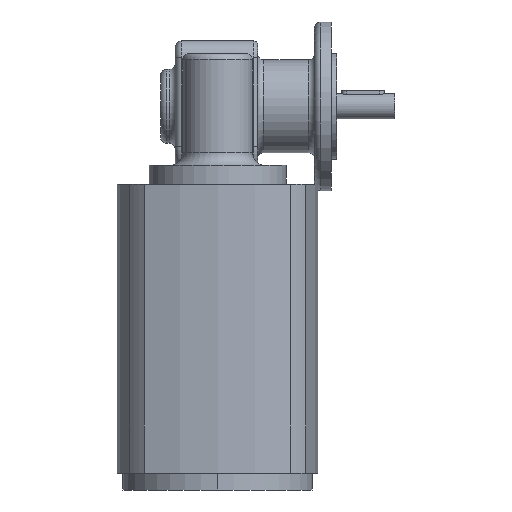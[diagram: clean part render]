
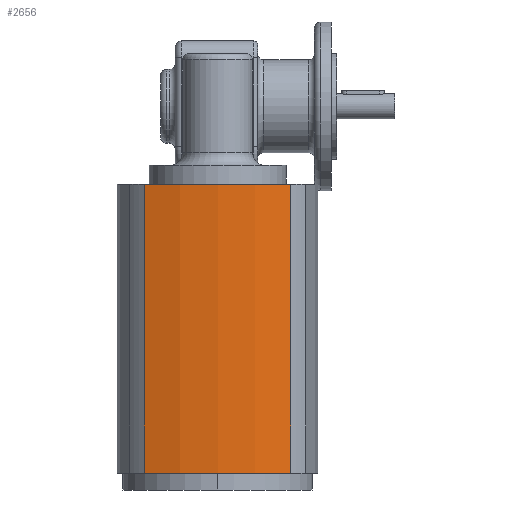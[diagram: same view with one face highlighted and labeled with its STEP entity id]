
A CAD part, front view. The second image highlights one B-rep face of the part: STEP entity #2656.
In plain terms, the highlighted cylindrical face has radius 107.045 mm (diameter 214.089 mm), a partial arc.
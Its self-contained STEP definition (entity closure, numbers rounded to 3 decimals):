
#872 = DIRECTION ( 'NONE',  ( 0., 0., 1. ) ) ;
#875 = FACE_OUTER_BOUND ( 'NONE', #3263, .T. ) ;
#876 = CARTESIAN_POINT ( 'NONE',  ( 59.545, 0., -137. ) ) ;
#877 = CYLINDRICAL_SURFACE ( 'NONE', #2227, 107.045 ) ;
#878 = DIRECTION ( 'NONE',  ( 1., 0., 0. ) ) ;
#1117 = CARTESIAN_POINT ( 'NONE',  ( -41.733, -34.662, -137. ) ) ;
#1790 = CARTESIAN_POINT ( 'NONE',  ( -41.733, 34.662, -137. ) ) ;
#1794 = LINE ( 'NONE', #1790, #2025 ) ;
#1798 = DIRECTION ( 'NONE',  ( 0., 0., 1. ) ) ;
#1799 = LINE ( 'NONE', #1800, #2031 ) ;
#1800 = CARTESIAN_POINT ( 'NONE',  ( -41.733, -34.662, -137. ) ) ;
#1808 = DIRECTION ( 'NONE',  ( 0., 0., 1. ) ) ;
#1813 = CARTESIAN_POINT ( 'NONE',  ( 59.545, 0., 0. ) ) ;
#1814 = DIRECTION ( 'NONE',  ( 0., 0., 1. ) ) ;
#1815 = DIRECTION ( 'NONE',  ( 1., 0., 0. ) ) ;
#2025 = VECTOR ( 'NONE', #1798, 1000. ) ;
#2031 = VECTOR ( 'NONE', #1808, 1000. ) ;
#2033 = CIRCLE ( 'NONE', #2036, 107.045 ) ;
#2036 = AXIS2_PLACEMENT_3D ( 'NONE', #1813, #1814, #1815 ) ;
#2227 = AXIS2_PLACEMENT_3D ( 'NONE', #876, #872, #878 ) ;
#2343 = VERTEX_POINT ( 'NONE', #3903 ) ;
#2344 = VERTEX_POINT ( 'NONE', #3904 ) ;
#2346 = VERTEX_POINT ( 'NONE', #3899 ) ;
#2656 = ADVANCED_FACE ( 'NONE', ( #875 ), #877, .T. ) ;
#3136 = ORIENTED_EDGE ( 'NONE', *, *, #3571, .T. ) ;
#3145 = ORIENTED_EDGE ( 'NONE', *, *, #4070, .T. ) ;
#3147 = ORIENTED_EDGE ( 'NONE', *, *, #3568, .F. ) ;
#3149 = ORIENTED_EDGE ( 'NONE', *, *, #3573, .F. ) ;
#3173 = VERTEX_POINT ( 'NONE', #1117 ) ;
#3263 = EDGE_LOOP ( 'NONE', ( #3149, #3147, #3145, #3136 ) ) ;
#3568 = EDGE_CURVE ( 'NONE', #2346, #2343, #1794, .T. ) ;
#3571 = EDGE_CURVE ( 'NONE', #3173, #2344, #1799, .T. ) ;
#3573 = EDGE_CURVE ( 'NONE', #2343, #2344, #2033, .T. ) ;
#3899 = CARTESIAN_POINT ( 'NONE',  ( -41.733, 34.662, -137. ) ) ;
#3903 = CARTESIAN_POINT ( 'NONE',  ( -41.733, 34.662, 0. ) ) ;
#3904 = CARTESIAN_POINT ( 'NONE',  ( -41.733, -34.662, 0. ) ) ;
#4070 = EDGE_CURVE ( 'NONE', #2346, #3173, #4708, .T. ) ;
#4415 = CARTESIAN_POINT ( 'NONE',  ( 59.545, 0., -137. ) ) ;
#4416 = DIRECTION ( 'NONE',  ( 0., 0., 1. ) ) ;
#4417 = DIRECTION ( 'NONE',  ( 1., 0., 0. ) ) ;
#4708 = CIRCLE ( 'NONE', #4715, 107.045 ) ;
#4715 = AXIS2_PLACEMENT_3D ( 'NONE', #4415, #4416, #4417 ) ;
